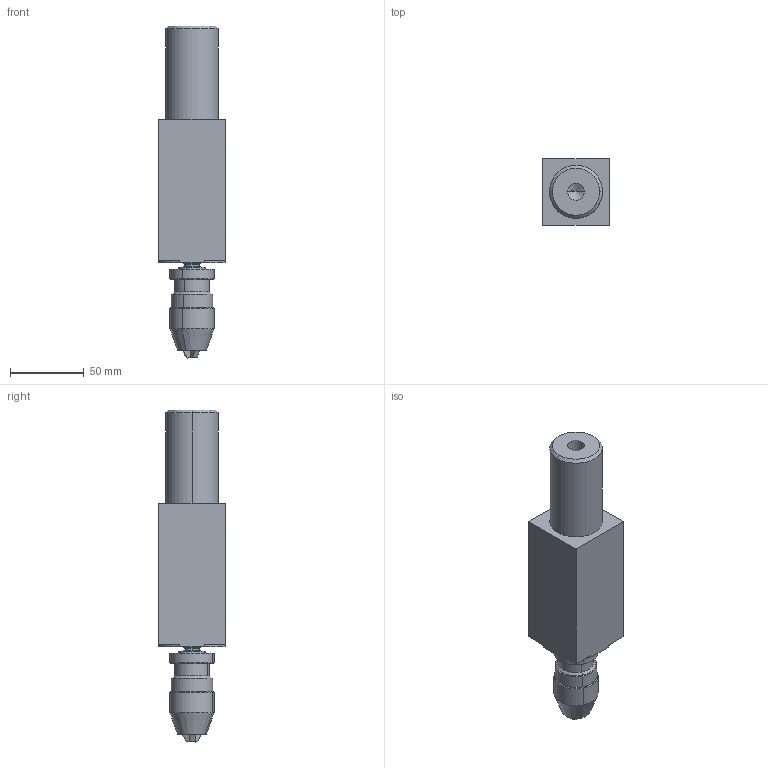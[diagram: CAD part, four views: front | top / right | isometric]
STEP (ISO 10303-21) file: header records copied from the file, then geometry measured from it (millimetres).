
FILE_DESCRIPTION (( 'STEP AP203' ), '1' );
FILE_NAME ('BEP2222-22220SK with precision chuck Albrecht 0-5mm.STEP', '2009-10-15T07:37:25', ( 'HP' ), ( '' ), 'SwSTEP 2.0', 'SolidWorks 2008', '' );
FILE_SCHEMA (( 'CONFIG_CONTROL_DESIGN' ));
Length unit declared in the file: millimetre
Products named in the file (3): BEP2222-22220SK; 041J004005 Precision chuck Albrecht, B10, 0-5 mm; BEP2222-22220SK with precision chuck Albrecht 0-5mm
Assembly tree (2 placements, depth 2):
  BEP2222-22220SK with precision chuck Albrecht 0-5mm
    BEP2222-22220SK
    041J004005 Precision chuck Albrecht, B10, 0-5 mm
Bounding box: 45 x 45 x 224.5 mm (x, y, z)
Volume: 287726.9 mm3; surface area: 37380.6 mm2
Topology: 2 solids, 2 shells, 109 faces, 248 edges, 148 vertices
Faces by surface type: cylinder 40, cone 35, plane 32, bspline 2
Entity records: 3327 total; most frequent: DIRECTION 570, CARTESIAN_POINT 558, ORIENTED_EDGE 472, EDGE_CURVE 236, AXIS2_PLACEMENT_3D 228, VERTEX_POINT 148, EDGE_LOOP 126, CIRCLE 116
